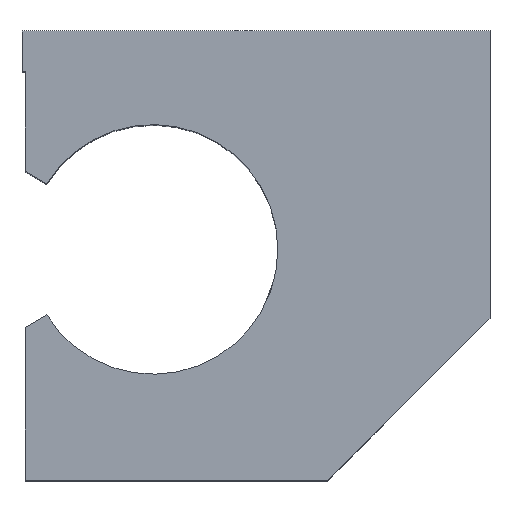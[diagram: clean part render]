
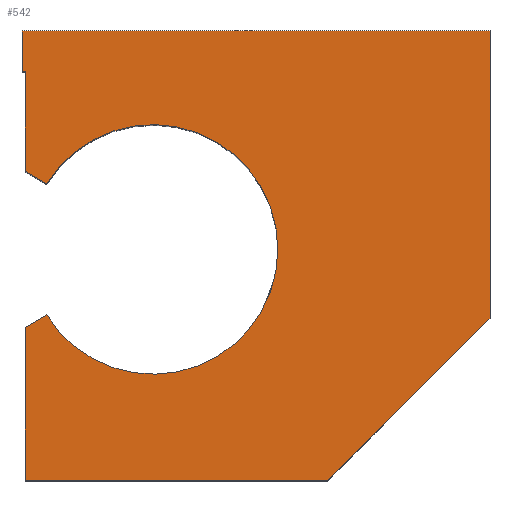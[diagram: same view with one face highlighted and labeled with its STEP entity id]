
A CAD part, top view. The second image highlights one B-rep face of the part: STEP entity #542.
In plain terms, the highlighted planar face has unit normal (0, 0, 1).
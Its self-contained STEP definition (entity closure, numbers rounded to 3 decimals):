
#9 = DIRECTION ( 'NONE',  ( 0., 1., 0. ) ) ;
#19 = VERTEX_POINT ( 'NONE', #191 ) ;
#64 = CARTESIAN_POINT ( 'NONE',  ( -37., 29.5, 33.5 ) ) ;
#105 = DIRECTION ( 'NONE',  ( -1., 0., 0. ) ) ;
#108 = CARTESIAN_POINT ( 'NONE',  ( -37.5, 36., 33.5 ) ) ;
#114 = DIRECTION ( 'NONE',  ( 1., 0., 0. ) ) ;
#121 = ORIENTED_EDGE ( 'NONE', *, *, #317, .F. ) ;
#123 = FACE_OUTER_BOUND ( 'NONE', #613, .T. ) ;
#129 = VECTOR ( 'NONE', #893, 1000. ) ;
#151 = VECTOR ( 'NONE', #711, 1000. ) ;
#154 = VECTOR ( 'NONE', #172, 1000. ) ;
#172 = DIRECTION ( 'NONE',  ( 0.866, 0.5, 0. ) ) ;
#179 = CARTESIAN_POINT ( 'NONE',  ( -33.522, -9.5, 33.5 ) ) ;
#180 = AXIS2_PLACEMENT_3D ( 'NONE', #563, #661, #114 ) ;
#183 = VERTEX_POINT ( 'NONE', #540 ) ;
#191 = CARTESIAN_POINT ( 'NONE',  ( -37., -36., 33.5 ) ) ;
#193 = VECTOR ( 'NONE', #393, 1000. ) ;
#200 = ORIENTED_EDGE ( 'NONE', *, *, #273, .T. ) ;
#209 = CARTESIAN_POINT ( 'NONE',  ( -37., 29.5, 33.5 ) ) ;
#210 = CARTESIAN_POINT ( 'NONE',  ( -37., 29.5, 33.5 ) ) ;
#225 = ORIENTED_EDGE ( 'NONE', *, *, #434, .F. ) ;
#237 = DIRECTION ( 'NONE',  ( 0.707, 0.707, 0. ) ) ;
#253 = VECTOR ( 'NONE', #105, 1000. ) ;
#265 = VERTEX_POINT ( 'NONE', #589 ) ;
#273 = EDGE_CURVE ( 'NONE', #19, #265, #999, .T. ) ;
#278 = CARTESIAN_POINT ( 'NONE',  ( -33.522, 11.5, 33.5 ) ) ;
#282 = ORIENTED_EDGE ( 'NONE', *, *, #941, .F. ) ;
#283 = AXIS2_PLACEMENT_3D ( 'NONE', #925, #919, #1353 ) ;
#306 = VECTOR ( 'NONE', #237, 1000. ) ;
#317 = EDGE_CURVE ( 'NONE', #865, #973, #1133, .T. ) ;
#325 = LINE ( 'NONE', #108, #1293 ) ;
#336 = LINE ( 'NONE', #1066, #306 ) ;
#343 = CARTESIAN_POINT ( 'NONE',  ( 3.5, 1., 33.5 ) ) ;
#347 = CARTESIAN_POINT ( 'NONE',  ( -37.5, -36., 33.5 ) ) ;
#348 = ORIENTED_EDGE ( 'NONE', *, *, #965, .F. ) ;
#388 = DIRECTION ( 'NONE',  ( 1., 0., 0. ) ) ;
#391 = ORIENTED_EDGE ( 'NONE', *, *, #414, .T. ) ;
#393 = DIRECTION ( 'NONE',  ( 0., 1., 0. ) ) ;
#414 = EDGE_CURVE ( 'NONE', #1344, #954, #325, .T. ) ;
#418 = LINE ( 'NONE', #210, #253 ) ;
#429 = CARTESIAN_POINT ( 'NONE',  ( 37.5, -10., 33.5 ) ) ;
#434 = EDGE_CURVE ( 'NONE', #183, #1034, #1137, .T. ) ;
#473 = CARTESIAN_POINT ( 'NONE',  ( -37., -11.508, 33.5 ) ) ;
#514 = VERTEX_POINT ( 'NONE', #343 ) ;
#539 = DIRECTION ( 'NONE',  ( -1., 0., 0. ) ) ;
#540 = CARTESIAN_POINT ( 'NONE',  ( -37., 13.508, 33.5 ) ) ;
#542 = ADVANCED_FACE ( 'NONE', ( #123 ), #769, .T. ) ;
#554 = AXIS2_PLACEMENT_3D ( 'NONE', #1024, #609, #388 ) ;
#563 = CARTESIAN_POINT ( 'NONE',  ( 0., 0., 33.5 ) ) ;
#586 = CARTESIAN_POINT ( 'NONE',  ( -33.522, 11.5, 33.5 ) ) ;
#589 = CARTESIAN_POINT ( 'NONE',  ( 11.5, -36., 33.5 ) ) ;
#609 = DIRECTION ( 'NONE',  ( 0., 0., 1. ) ) ;
#613 = EDGE_LOOP ( 'NONE', ( #1029, #225, #348, #778, #964, #121, #282, #200, #1215, #1165, #1206, #391 ) ) ;
#615 = LINE ( 'NONE', #278, #151 ) ;
#638 = LINE ( 'NONE', #833, #935 ) ;
#645 = VERTEX_POINT ( 'NONE', #586 ) ;
#661 = DIRECTION ( 'NONE',  ( 0., 0., 1. ) ) ;
#674 = CARTESIAN_POINT ( 'NONE',  ( -37.5, 36., 33.5 ) ) ;
#711 = DIRECTION ( 'NONE',  ( -0.866, 0.5, 0. ) ) ;
#722 = VERTEX_POINT ( 'NONE', #429 ) ;
#746 = EDGE_CURVE ( 'NONE', #265, #722, #336, .T. ) ;
#769 = PLANE ( 'NONE',  #180 ) ;
#778 = ORIENTED_EDGE ( 'NONE', *, *, #903, .F. ) ;
#833 = CARTESIAN_POINT ( 'NONE',  ( -37.5, 36., 33.5 ) ) ;
#847 = DIRECTION ( 'NONE',  ( 0., -1., 0. ) ) ;
#849 = CIRCLE ( 'NONE', #554, 20. ) ;
#865 = VERTEX_POINT ( 'NONE', #473 ) ;
#872 = VECTOR ( 'NONE', #9, 1000. ) ;
#893 = DIRECTION ( 'NONE',  ( 1., 0., 0. ) ) ;
#903 = EDGE_CURVE ( 'NONE', #514, #645, #849, .T. ) ;
#919 = DIRECTION ( 'NONE',  ( 0., 0., 1. ) ) ;
#925 = CARTESIAN_POINT ( 'NONE',  ( -16.5, 1., 33.5 ) ) ;
#935 = VECTOR ( 'NONE', #539, 1000. ) ;
#941 = EDGE_CURVE ( 'NONE', #19, #865, #1009, .T. ) ;
#952 = LINE ( 'NONE', #1169, #872 ) ;
#954 = VERTEX_POINT ( 'NONE', #1226 ) ;
#964 = ORIENTED_EDGE ( 'NONE', *, *, #1008, .F. ) ;
#965 = EDGE_CURVE ( 'NONE', #645, #183, #615, .T. ) ;
#966 = VERTEX_POINT ( 'NONE', #1119 ) ;
#973 = VERTEX_POINT ( 'NONE', #179 ) ;
#999 = LINE ( 'NONE', #347, #129 ) ;
#1008 = EDGE_CURVE ( 'NONE', #973, #514, #1185, .T. ) ;
#1009 = LINE ( 'NONE', #64, #193 ) ;
#1024 = CARTESIAN_POINT ( 'NONE',  ( -16.5, 1., 33.5 ) ) ;
#1029 = ORIENTED_EDGE ( 'NONE', *, *, #1261, .F. ) ;
#1032 = CARTESIAN_POINT ( 'NONE',  ( -37., 29.5, 33.5 ) ) ;
#1034 = VERTEX_POINT ( 'NONE', #1032 ) ;
#1066 = CARTESIAN_POINT ( 'NONE',  ( 23.75, -23.75, 33.5 ) ) ;
#1116 = CARTESIAN_POINT ( 'NONE',  ( -33.522, -9.5, 33.5 ) ) ;
#1119 = CARTESIAN_POINT ( 'NONE',  ( 37.5, 36., 33.5 ) ) ;
#1125 = EDGE_CURVE ( 'NONE', #722, #966, #952, .T. ) ;
#1133 = LINE ( 'NONE', #1116, #154 ) ;
#1137 = LINE ( 'NONE', #209, #1143 ) ;
#1143 = VECTOR ( 'NONE', #1259, 1000. ) ;
#1165 = ORIENTED_EDGE ( 'NONE', *, *, #1125, .T. ) ;
#1169 = CARTESIAN_POINT ( 'NONE',  ( 37.5, 36., 33.5 ) ) ;
#1185 = CIRCLE ( 'NONE', #283, 20. ) ;
#1206 = ORIENTED_EDGE ( 'NONE', *, *, #1266, .T. ) ;
#1215 = ORIENTED_EDGE ( 'NONE', *, *, #746, .T. ) ;
#1226 = CARTESIAN_POINT ( 'NONE',  ( -37.5, 29.5, 33.5 ) ) ;
#1259 = DIRECTION ( 'NONE',  ( 0., 1., 0. ) ) ;
#1261 = EDGE_CURVE ( 'NONE', #1034, #954, #418, .T. ) ;
#1266 = EDGE_CURVE ( 'NONE', #966, #1344, #638, .T. ) ;
#1293 = VECTOR ( 'NONE', #847, 1000. ) ;
#1344 = VERTEX_POINT ( 'NONE', #674 ) ;
#1353 = DIRECTION ( 'NONE',  ( 1., 0., 0. ) ) ;
